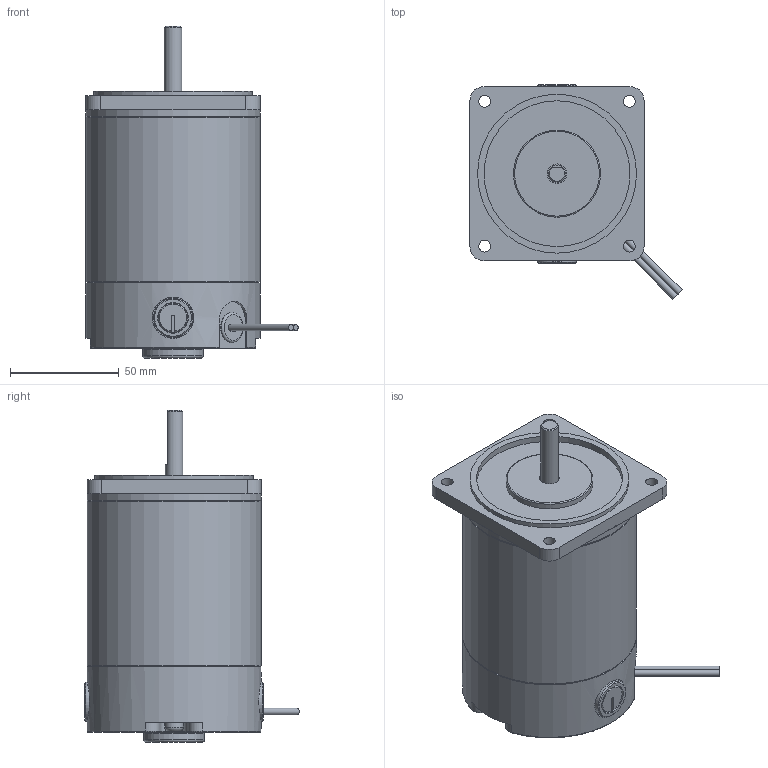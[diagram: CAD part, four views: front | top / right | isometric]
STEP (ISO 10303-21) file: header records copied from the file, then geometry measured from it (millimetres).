
FILE_DESCRIPTION((''),'2;1');
FILE_NAME('C:\Documents and Settings\ycw1227\바탕 화면\S8D25-ㅁD.stp','2013-06-04T08:03:44',('ycw1227'),(''),'Autodesk Inventor 2011','Autodesk Inventor 2011','');
FILE_SCHEMA(('AUTOMOTIVE_DESIGN { 1 0 10303 214 1 1 1 1 }'));
Length unit declared in the file: millimetre
Products named in the file (1): 부품2
Bounding box: 97.45 x 98.45 x 152.5 mm (x, y, z)
Volume: 594446 mm3; surface area: 51516.8 mm2
Topology: 1 solids, 3 shells, 176 faces, 418 edges, 271 vertices
Faces by surface type: plane 100, cylinder 46, cone 15, torus 15
Full cylindrical faces by diameter (mm): 3 x2, 5 x2, 5.5 x4, 8 x1, 8.5 x2, 9 x2, 13.5 x2, 14 x3, 18 x2, 19 x2, 28 x1, 40 x1, 67 x1, 73 x1, 80 x3
Entity records: 5134 total; most frequent: CARTESIAN_POINT 1030, DIRECTION 835, ORIENTED_EDGE 750, EDGE_CURVE 375, AXIS2_PLACEMENT_3D 328, VERTEX_POINT 265, EDGE_LOOP 245, VECTOR 179
